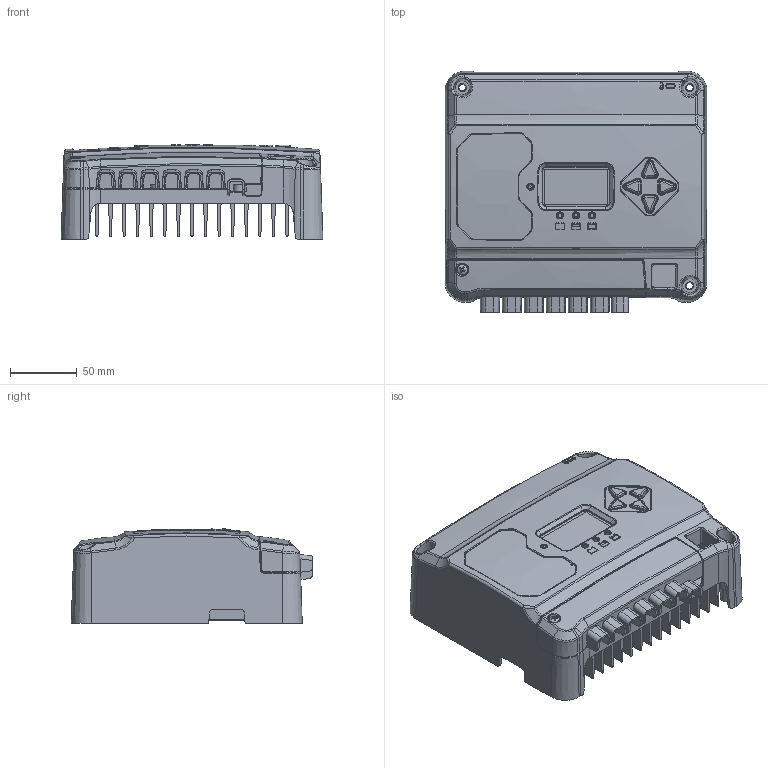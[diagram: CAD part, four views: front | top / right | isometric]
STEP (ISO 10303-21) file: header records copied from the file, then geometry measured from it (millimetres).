
FILE_DESCRIPTION(/* description */ ('Unknown'),/* implementation_level */ '2;1');
FILE_NAME(/* name */ 'Ecoboost MPPT-40M Public',/* time_stamp */ '2024-07-18T17:09:22-04:00',/* author */ ('Unknown'),/* organization */ ('Unknown'),/* preprocessor_version */ 'ST-DEVELOPER v16.7',/* originating_system */ 'Solid Edge',/* authorisation */ 'Unknown');
FILE_SCHEMA (('AUTOMOTIVE_DESIGN {1 0 10303 214 3 1 1}'));
Products named in the file (1): Ecoboost MPPT-40M Public
Bounding box: 195.59 x 180.45 x 70.56 mm (x, y, z)
Volume: 424000.4 mm3; surface area: 346871 mm2
Topology: 3 solids, 3 shells, 2735 faces, 7624 edges, 4944 vertices
Faces by surface type: plane 1214, bspline 561, cylinder 556, cone 313, torus 51, sphere 40
Full cylindrical faces by diameter (mm): 1.8 x2, 2.459 x19, 2.8 x1, 5.25 x4, 5.74 x1, 6 x2, 7 x1, 8 x2, 8.179 x4, 9 x1
Entity records: 137087 total; most frequent: CARTESIAN_POINT 54717, ORIENTED_EDGE 14748, DIRECTION 10807, EDGE_CURVE 7374, VERTEX_POINT 4846, AXIS2_PLACEMENT_3D 3618, LINE 3571, VECTOR 3571
